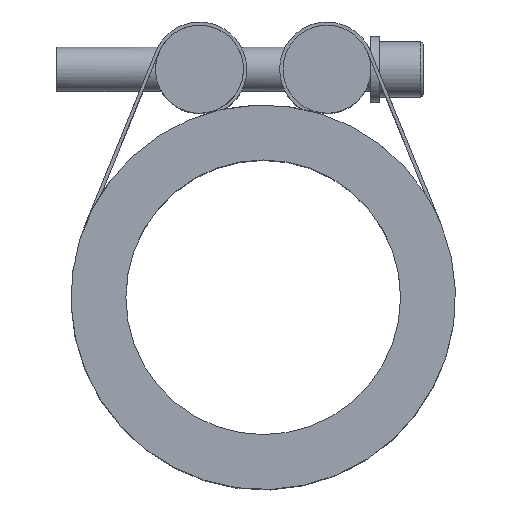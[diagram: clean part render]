
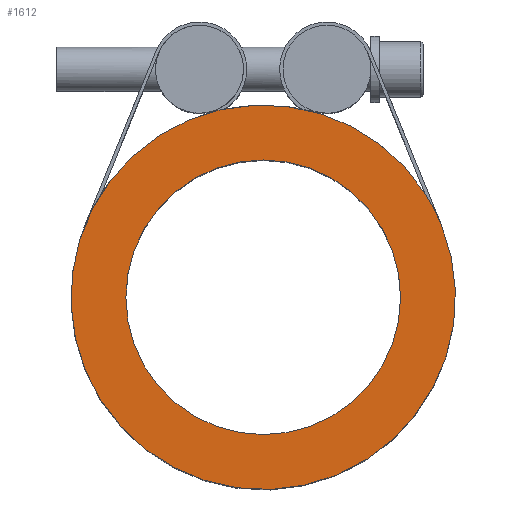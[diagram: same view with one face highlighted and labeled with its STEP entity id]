
A CAD part, top view. The second image highlights one B-rep face of the part: STEP entity #1612.
In plain terms, the highlighted planar face has unit normal (0, 0, 1).
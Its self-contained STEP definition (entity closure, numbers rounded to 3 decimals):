
#322=PLANE('',#1756);
#420=FACE_BOUND('',#598,.T.);
#468=FACE_OUTER_BOUND('',#597,.T.);
#597=EDGE_LOOP('',(#1317));
#598=EDGE_LOOP('',(#1318));
#690=CIRCLE('',#1751,35.);
#692=CIRCLE('',#1754,25.);
#830=VERTEX_POINT('',#2853);
#832=VERTEX_POINT('',#2858);
#1006=EDGE_CURVE('',#830,#830,#690,.T.);
#1008=EDGE_CURVE('',#832,#832,#692,.T.);
#1317=ORIENTED_EDGE('',*,*,#1006,.F.);
#1318=ORIENTED_EDGE('',*,*,#1008,.T.);
#1612=ADVANCED_FACE('',(#468,#420),#322,.T.);
#1751=AXIS2_PLACEMENT_3D('',#2854,#2087,#2088);
#1754=AXIS2_PLACEMENT_3D('',#2859,#2093,#2094);
#1756=AXIS2_PLACEMENT_3D('',#2861,#2097,#2098);
#2087=DIRECTION('center_axis',(0.,0.,-1.));
#2088=DIRECTION('ref_axis',(1.,0.,0.));
#2093=DIRECTION('center_axis',(0.,0.,-1.));
#2094=DIRECTION('ref_axis',(-1.,0.,0.));
#2097=DIRECTION('center_axis',(0.,0.,1.));
#2098=DIRECTION('ref_axis',(1.,0.,0.));
#2853=CARTESIAN_POINT('',(29.425,18.951,30.5));
#2854=CARTESIAN_POINT('Origin',(0.,0.,30.5));
#2858=CARTESIAN_POINT('',(25.,0.,30.5));
#2859=CARTESIAN_POINT('Origin',(0.,0.,30.5));
#2861=CARTESIAN_POINT('Origin',(0.,1.775,30.5));
